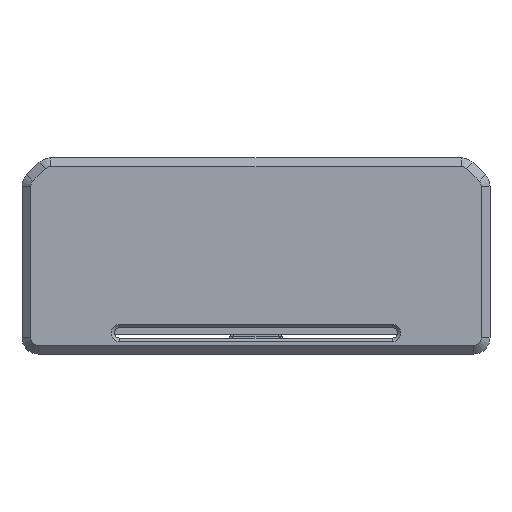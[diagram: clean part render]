
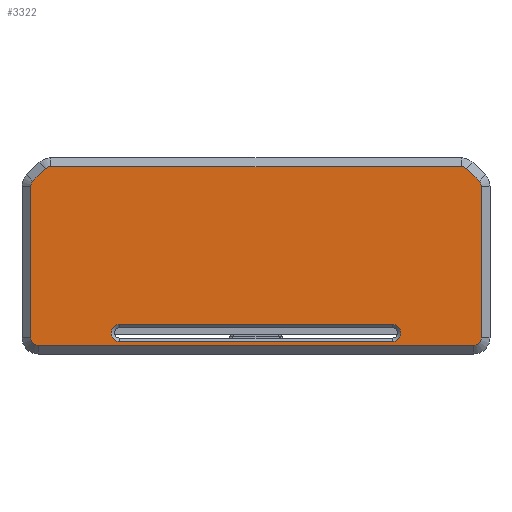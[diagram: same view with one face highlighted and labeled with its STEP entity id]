
A CAD part, front view. The second image highlights one B-rep face of the part: STEP entity #3322.
In plain terms, the highlighted planar face has unit normal (0, -1, 0).
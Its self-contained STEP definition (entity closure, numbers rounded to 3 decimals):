
#157=FACE_BOUND('',#601,.T.);
#238=PLANE('',#3558);
#411=FACE_OUTER_BOUND('',#600,.T.);
#600=EDGE_LOOP('',(#2511,#2512,#2513,#2514,#2515,#2516,#2517,#2518,#2519,
#2520,#2521,#2522));
#601=EDGE_LOOP('',(#2523,#2524,#2525,#2526));
#826=LINE('',#5260,#1125);
#830=LINE('',#5269,#1129);
#831=LINE('',#5275,#1130);
#832=LINE('',#5279,#1131);
#833=LINE('',#5283,#1132);
#834=LINE('',#5287,#1133);
#835=LINE('',#5291,#1134);
#836=LINE('',#5295,#1135);
#1125=VECTOR('',#3975,10.);
#1129=VECTOR('',#3985,10.);
#1130=VECTOR('',#3992,10.);
#1131=VECTOR('',#3995,10.);
#1132=VECTOR('',#3998,10.);
#1133=VECTOR('',#4001,10.);
#1134=VECTOR('',#4004,10.);
#1135=VECTOR('',#4007,10.);
#1440=CIRCLE('',#3554,0.8);
#1441=CIRCLE('',#3557,0.8);
#1442=CIRCLE('',#3559,0.7);
#1443=CIRCLE('',#3560,0.7);
#1444=CIRCLE('',#3561,0.7);
#1445=CIRCLE('',#3562,0.7);
#1446=CIRCLE('',#3563,0.7);
#1447=CIRCLE('',#3564,0.7);
#1573=VERTEX_POINT('',#5257);
#1574=VERTEX_POINT('',#5259);
#1575=VERTEX_POINT('',#5263);
#1576=VERTEX_POINT('',#5267);
#1577=VERTEX_POINT('',#5273);
#1578=VERTEX_POINT('',#5274);
#1579=VERTEX_POINT('',#5276);
#1580=VERTEX_POINT('',#5278);
#1581=VERTEX_POINT('',#5280);
#1582=VERTEX_POINT('',#5282);
#1583=VERTEX_POINT('',#5284);
#1584=VERTEX_POINT('',#5286);
#1585=VERTEX_POINT('',#5288);
#1586=VERTEX_POINT('',#5290);
#1587=VERTEX_POINT('',#5292);
#1588=VERTEX_POINT('',#5294);
#1925=EDGE_CURVE('',#1573,#1574,#826,.T.);
#1928=EDGE_CURVE('',#1575,#1573,#1440,.T.);
#1930=EDGE_CURVE('',#1576,#1575,#830,.T.);
#1931=EDGE_CURVE('',#1574,#1576,#1441,.T.);
#1932=EDGE_CURVE('',#1577,#1578,#831,.T.);
#1933=EDGE_CURVE('',#1579,#1577,#1442,.T.);
#1934=EDGE_CURVE('',#1580,#1579,#832,.T.);
#1935=EDGE_CURVE('',#1581,#1580,#1443,.T.);
#1936=EDGE_CURVE('',#1582,#1581,#833,.T.);
#1937=EDGE_CURVE('',#1583,#1582,#1444,.T.);
#1938=EDGE_CURVE('',#1584,#1583,#834,.T.);
#1939=EDGE_CURVE('',#1585,#1584,#1445,.T.);
#1940=EDGE_CURVE('',#1586,#1585,#835,.T.);
#1941=EDGE_CURVE('',#1587,#1586,#1446,.T.);
#1942=EDGE_CURVE('',#1588,#1587,#836,.T.);
#1943=EDGE_CURVE('',#1578,#1588,#1447,.T.);
#2511=ORIENTED_EDGE('',*,*,#1932,.F.);
#2512=ORIENTED_EDGE('',*,*,#1933,.F.);
#2513=ORIENTED_EDGE('',*,*,#1934,.F.);
#2514=ORIENTED_EDGE('',*,*,#1935,.F.);
#2515=ORIENTED_EDGE('',*,*,#1936,.F.);
#2516=ORIENTED_EDGE('',*,*,#1937,.F.);
#2517=ORIENTED_EDGE('',*,*,#1938,.F.);
#2518=ORIENTED_EDGE('',*,*,#1939,.F.);
#2519=ORIENTED_EDGE('',*,*,#1940,.F.);
#2520=ORIENTED_EDGE('',*,*,#1941,.F.);
#2521=ORIENTED_EDGE('',*,*,#1942,.F.);
#2522=ORIENTED_EDGE('',*,*,#1943,.F.);
#2523=ORIENTED_EDGE('',*,*,#1925,.F.);
#2524=ORIENTED_EDGE('',*,*,#1928,.F.);
#2525=ORIENTED_EDGE('',*,*,#1930,.F.);
#2526=ORIENTED_EDGE('',*,*,#1931,.F.);
#3322=ADVANCED_FACE('',(#411,#157),#238,.T.);
#3554=AXIS2_PLACEMENT_3D('',#5265,#3980,#3981);
#3557=AXIS2_PLACEMENT_3D('',#5271,#3988,#3989);
#3558=AXIS2_PLACEMENT_3D('',#5272,#3990,#3991);
#3559=AXIS2_PLACEMENT_3D('',#5277,#3993,#3994);
#3560=AXIS2_PLACEMENT_3D('',#5281,#3996,#3997);
#3561=AXIS2_PLACEMENT_3D('',#5285,#3999,#4000);
#3562=AXIS2_PLACEMENT_3D('',#5289,#4002,#4003);
#3563=AXIS2_PLACEMENT_3D('',#5293,#4005,#4006);
#3564=AXIS2_PLACEMENT_3D('',#5296,#4008,#4009);
#3975=DIRECTION('',(-1.,0.,0.));
#3980=DIRECTION('center_axis',(0.,-1.,0.));
#3981=DIRECTION('ref_axis',(0.,0.,1.));
#3985=DIRECTION('',(1.,0.,0.));
#3988=DIRECTION('center_axis',(0.,-1.,0.));
#3989=DIRECTION('ref_axis',(0.,0.,-1.));
#3990=DIRECTION('center_axis',(0.,-1.,0.));
#3991=DIRECTION('ref_axis',(0.,0.,-1.));
#3992=DIRECTION('',(1.,0.,0.));
#3993=DIRECTION('center_axis',(0.,1.,0.));
#3994=DIRECTION('ref_axis',(-0.383,0.,0.924));
#3995=DIRECTION('',(0.707,0.,0.707));
#3996=DIRECTION('center_axis',(0.,1.,0.));
#3997=DIRECTION('ref_axis',(-0.924,0.,0.383));
#3998=DIRECTION('',(0.,0.,1.));
#3999=DIRECTION('center_axis',(0.,1.,0.));
#4000=DIRECTION('ref_axis',(-0.707,0.,-0.707));
#4001=DIRECTION('',(-1.,0.,0.));
#4002=DIRECTION('center_axis',(0.,1.,0.));
#4003=DIRECTION('ref_axis',(0.707,0.,-0.707));
#4004=DIRECTION('',(0.,0.,-1.));
#4005=DIRECTION('center_axis',(0.,1.,0.));
#4006=DIRECTION('ref_axis',(0.924,0.,0.383));
#4007=DIRECTION('',(0.707,0.,-0.707));
#4008=DIRECTION('center_axis',(0.,1.,0.));
#4009=DIRECTION('ref_axis',(0.383,0.,0.924));
#5257=CARTESIAN_POINT('',(-93.,15.5,-14.05));
#5259=CARTESIAN_POINT('',(-118.,15.5,-14.05));
#5260=CARTESIAN_POINT('',(-111.75,15.5,-14.05));
#5263=CARTESIAN_POINT('',(-93.,15.5,-15.65));
#5265=CARTESIAN_POINT('Origin',(-93.,15.5,-14.85));
#5267=CARTESIAN_POINT('',(-118.,15.5,-15.65));
#5269=CARTESIAN_POINT('',(-113.75,15.5,-15.65));
#5271=CARTESIAN_POINT('Origin',(-118.,15.5,-14.85));
#5272=CARTESIAN_POINT('Origin',(-105.5,15.5,-7.786));
#5273=CARTESIAN_POINT('',(-124.379,15.5,0.427));
#5274=CARTESIAN_POINT('',(-86.621,15.5,0.427));
#5275=CARTESIAN_POINT('',(-116.25,15.5,0.427));
#5276=CARTESIAN_POINT('',(-124.874,15.5,0.222));
#5277=CARTESIAN_POINT('Origin',(-124.379,15.5,-0.273));
#5278=CARTESIAN_POINT('',(-125.995,15.5,-0.899));
#5279=CARTESIAN_POINT('',(-122.313,15.5,2.783));
#5280=CARTESIAN_POINT('',(-126.2,15.5,-1.394));
#5281=CARTESIAN_POINT('Origin',(-125.5,15.5,-1.394));
#5282=CARTESIAN_POINT('',(-126.2,15.5,-15.3));
#5283=CARTESIAN_POINT('',(-126.2,15.5,-12.293));
#5284=CARTESIAN_POINT('',(-125.5,15.5,-16.));
#5285=CARTESIAN_POINT('Origin',(-125.5,15.5,-15.3));
#5286=CARTESIAN_POINT('',(-85.5,15.5,-16.));
#5287=CARTESIAN_POINT('',(-94.75,15.5,-16.));
#5288=CARTESIAN_POINT('',(-84.8,15.5,-15.3));
#5289=CARTESIAN_POINT('Origin',(-85.5,15.5,-15.3));
#5290=CARTESIAN_POINT('',(-84.8,15.5,-1.394));
#5291=CARTESIAN_POINT('',(-84.8,15.5,-3.28));
#5292=CARTESIAN_POINT('',(-85.005,15.5,-0.899));
#5293=CARTESIAN_POINT('Origin',(-85.5,15.5,-1.394));
#5294=CARTESIAN_POINT('',(-86.126,15.5,0.222));
#5295=CARTESIAN_POINT('',(-88.687,15.5,2.783));
#5296=CARTESIAN_POINT('Origin',(-86.621,15.5,-0.273));
